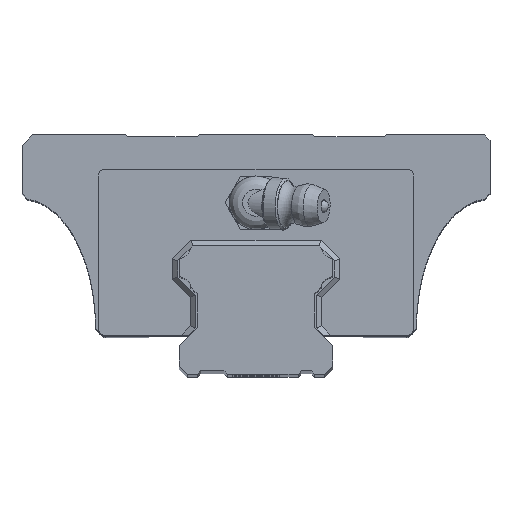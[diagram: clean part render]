
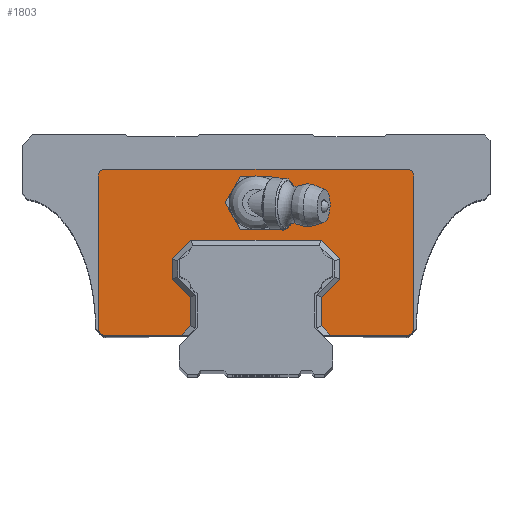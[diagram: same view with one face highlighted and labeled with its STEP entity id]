
A CAD part, top view. The second image highlights one B-rep face of the part: STEP entity #1803.
In plain terms, the highlighted planar face has unit normal (0, 0, 1).
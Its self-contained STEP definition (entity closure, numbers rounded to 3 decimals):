
#1617=CARTESIAN_POINT('',(2441.735,-3993.461,-50673.839));
#1618=VERTEX_POINT('',#1617);
#1619=CARTESIAN_POINT('',(2438.735,-3993.461,-50673.839));
#1620=DIRECTION('',(0.0,0.0,1.0));
#1621=DIRECTION('',(1.0,0.0,0.0));
#1622=AXIS2_PLACEMENT_3D('',#1619,#1620,#1621);
#1623=CIRCLE('',#1622,3.);
#1624=EDGE_CURVE('',#1618,#1618,#1623,.T.);
#1629=CARTESIAN_POINT('',(2416.135,-4012.261,-50673.839));
#1630=DIRECTION('',(0.0,0.0,1.0));
#1631=DIRECTION('',(1.0,0.0,0.0));
#1632=AXIS2_PLACEMENT_3D('',#1629,#1630,#1631);
#1633=PLANE('',#1632);
#1634=CARTESIAN_POINT('',(2448.535,-4011.846,-50673.839));
#1635=VERTEX_POINT('',#1634);
#1636=CARTESIAN_POINT('',(2448.535,-4007.595,-50673.839));
#1637=VERTEX_POINT('',#1636);
#1638=CARTESIAN_POINT('',(2448.535,-4011.846,-50673.839));
#1639=DIRECTION('',(0.0,1.0,0.0));
#1640=VECTOR('',#1639,4.251);
#1641=LINE('',#1638,#1640);
#1642=EDGE_CURVE('',#1635,#1637,#1641,.T.);
#1643=ORIENTED_EDGE('',*,*,#1642,.F.);
#1644=CARTESIAN_POINT('',(2449.95,-4013.261,-50673.839));
#1645=VERTEX_POINT('',#1644);
#1646=CARTESIAN_POINT('',(2449.95,-4013.261,-50673.839));
#1647=DIRECTION('',(-0.707,0.707,0.0));
#1648=VECTOR('',#1647,2.);
#1649=LINE('',#1646,#1648);
#1650=EDGE_CURVE('',#1645,#1635,#1649,.T.);
#1651=ORIENTED_EDGE('',*,*,#1650,.F.);
#1652=CARTESIAN_POINT('',(2461.335,-4013.261,-50673.839));
#1653=VERTEX_POINT('',#1652);
#1654=CARTESIAN_POINT('',(2449.95,-4013.261,-50673.839));
#1655=DIRECTION('',(1.0,0.0,0.0));
#1656=VECTOR('',#1655,11.386);
#1657=LINE('',#1654,#1656);
#1658=EDGE_CURVE('',#1645,#1653,#1657,.T.);
#1659=ORIENTED_EDGE('',*,*,#1658,.T.);
#1660=CARTESIAN_POINT('',(2462.335,-4012.261,-50673.839));
#1661=VERTEX_POINT('',#1660);
#1662=CARTESIAN_POINT('',(2461.335,-4012.261,-50673.839));
#1663=DIRECTION('',(0.0,0.0,1.0));
#1664=DIRECTION('',(1.0,0.0,0.0));
#1665=AXIS2_PLACEMENT_3D('',#1662,#1663,#1664);
#1666=CIRCLE('',#1665,1.);
#1667=EDGE_CURVE('',#1653,#1661,#1666,.T.);
#1668=ORIENTED_EDGE('',*,*,#1667,.T.);
#1669=CARTESIAN_POINT('',(2462.335,-3989.461,-50673.839));
#1670=VERTEX_POINT('',#1669);
#1671=CARTESIAN_POINT('',(2462.335,-4012.261,-50673.839));
#1672=DIRECTION('',(0.0,1.0,0.0));
#1673=VECTOR('',#1672,22.8);
#1674=LINE('',#1671,#1673);
#1675=EDGE_CURVE('',#1661,#1670,#1674,.T.);
#1676=ORIENTED_EDGE('',*,*,#1675,.T.);
#1677=CARTESIAN_POINT('',(2461.335,-3988.461,-50673.839));
#1678=VERTEX_POINT('',#1677);
#1679=CARTESIAN_POINT('',(2461.335,-3989.461,-50673.839));
#1680=DIRECTION('',(0.0,0.0,1.0));
#1681=DIRECTION('',(1.0,0.0,0.0));
#1682=AXIS2_PLACEMENT_3D('',#1679,#1680,#1681);
#1683=CIRCLE('',#1682,1.);
#1684=EDGE_CURVE('',#1670,#1678,#1683,.T.);
#1685=ORIENTED_EDGE('',*,*,#1684,.T.);
#1686=CARTESIAN_POINT('',(2416.135,-3988.461,-50673.839));
#1687=VERTEX_POINT('',#1686);
#1688=CARTESIAN_POINT('',(2461.335,-3988.461,-50673.839));
#1689=DIRECTION('',(-1.0,0.0,0.0));
#1690=VECTOR('',#1689,45.2);
#1691=LINE('',#1688,#1690);
#1692=EDGE_CURVE('',#1678,#1687,#1691,.T.);
#1693=ORIENTED_EDGE('',*,*,#1692,.T.);
#1694=CARTESIAN_POINT('',(2415.135,-3989.461,-50673.839));
#1695=VERTEX_POINT('',#1694);
#1696=CARTESIAN_POINT('',(2416.135,-3989.461,-50673.839));
#1697=DIRECTION('',(0.0,0.0,1.0));
#1698=DIRECTION('',(1.0,0.0,0.0));
#1699=AXIS2_PLACEMENT_3D('',#1696,#1697,#1698);
#1700=CIRCLE('',#1699,1.);
#1701=EDGE_CURVE('',#1687,#1695,#1700,.T.);
#1702=ORIENTED_EDGE('',*,*,#1701,.T.);
#1703=CARTESIAN_POINT('',(2415.135,-4012.261,-50673.839));
#1704=VERTEX_POINT('',#1703);
#1705=CARTESIAN_POINT('',(2415.135,-3989.461,-50673.839));
#1706=DIRECTION('',(0.0,-1.0,0.0));
#1707=VECTOR('',#1706,22.8);
#1708=LINE('',#1705,#1707);
#1709=EDGE_CURVE('',#1695,#1704,#1708,.T.);
#1710=ORIENTED_EDGE('',*,*,#1709,.T.);
#1711=CARTESIAN_POINT('',(2416.135,-4013.261,-50673.839));
#1712=VERTEX_POINT('',#1711);
#1713=CARTESIAN_POINT('',(2416.135,-4012.261,-50673.839));
#1714=DIRECTION('',(0.0,0.0,1.0));
#1715=DIRECTION('',(1.0,0.0,0.0));
#1716=AXIS2_PLACEMENT_3D('',#1713,#1714,#1715);
#1717=CIRCLE('',#1716,1.);
#1718=EDGE_CURVE('',#1704,#1712,#1717,.T.);
#1719=ORIENTED_EDGE('',*,*,#1718,.T.);
#1720=CARTESIAN_POINT('',(2427.521,-4013.261,-50673.839));
#1721=VERTEX_POINT('',#1720);
#1722=CARTESIAN_POINT('',(2416.135,-4013.261,-50673.839));
#1723=DIRECTION('',(1.0,0.0,0.0));
#1724=VECTOR('',#1723,11.386);
#1725=LINE('',#1722,#1724);
#1726=EDGE_CURVE('',#1712,#1721,#1725,.T.);
#1727=ORIENTED_EDGE('',*,*,#1726,.T.);
#1728=CARTESIAN_POINT('',(2428.935,-4011.846,-50673.839));
#1729=VERTEX_POINT('',#1728);
#1730=CARTESIAN_POINT('',(2428.935,-4011.846,-50673.839));
#1731=DIRECTION('',(-0.707,-0.707,0.0));
#1732=VECTOR('',#1731,2.);
#1733=LINE('',#1730,#1732);
#1734=EDGE_CURVE('',#1729,#1721,#1733,.T.);
#1735=ORIENTED_EDGE('',*,*,#1734,.F.);
#1736=CARTESIAN_POINT('',(2428.935,-4007.595,-50673.839));
#1737=VERTEX_POINT('',#1736);
#1738=CARTESIAN_POINT('',(2428.935,-4007.595,-50673.839));
#1739=DIRECTION('',(0.0,-1.0,0.0));
#1740=VECTOR('',#1739,4.251);
#1741=LINE('',#1738,#1740);
#1742=EDGE_CURVE('',#1737,#1729,#1741,.T.);
#1743=ORIENTED_EDGE('',*,*,#1742,.F.);
#1744=CARTESIAN_POINT('',(2426.235,-4004.895,-50673.839));
#1745=VERTEX_POINT('',#1744);
#1746=CARTESIAN_POINT('',(2426.235,-4004.895,-50673.839));
#1747=DIRECTION('',(0.707,-0.707,0.0));
#1748=VECTOR('',#1747,3.819);
#1749=LINE('',#1746,#1748);
#1750=EDGE_CURVE('',#1745,#1737,#1749,.T.);
#1751=ORIENTED_EDGE('',*,*,#1750,.F.);
#1752=CARTESIAN_POINT('',(2426.235,-4001.823,-50673.839));
#1753=VERTEX_POINT('',#1752);
#1754=CARTESIAN_POINT('',(2426.235,-4001.823,-50673.839));
#1755=DIRECTION('',(0.0,-1.0,0.0));
#1756=VECTOR('',#1755,3.071);
#1757=LINE('',#1754,#1756);
#1758=EDGE_CURVE('',#1753,#1745,#1757,.T.);
#1759=ORIENTED_EDGE('',*,*,#1758,.F.);
#1760=CARTESIAN_POINT('',(2428.998,-3999.061,-50673.839));
#1761=VERTEX_POINT('',#1760);
#1762=CARTESIAN_POINT('',(2428.998,-3999.061,-50673.839));
#1763=DIRECTION('',(-0.707,-0.707,0.0));
#1764=VECTOR('',#1763,3.907);
#1765=LINE('',#1762,#1764);
#1766=EDGE_CURVE('',#1761,#1753,#1765,.T.);
#1767=ORIENTED_EDGE('',*,*,#1766,.F.);
#1768=CARTESIAN_POINT('',(2448.473,-3999.061,-50673.839));
#1769=VERTEX_POINT('',#1768);
#1770=CARTESIAN_POINT('',(2448.473,-3999.061,-50673.839));
#1771=DIRECTION('',(-1.0,0.0,0.0));
#1772=VECTOR('',#1771,19.475);
#1773=LINE('',#1770,#1772);
#1774=EDGE_CURVE('',#1769,#1761,#1773,.T.);
#1775=ORIENTED_EDGE('',*,*,#1774,.F.);
#1776=CARTESIAN_POINT('',(2451.236,-4001.823,-50673.839));
#1777=VERTEX_POINT('',#1776);
#1778=CARTESIAN_POINT('',(2451.236,-4001.823,-50673.839));
#1779=DIRECTION('',(-0.707,0.707,0.0));
#1780=VECTOR('',#1779,3.907);
#1781=LINE('',#1778,#1780);
#1782=EDGE_CURVE('',#1777,#1769,#1781,.T.);
#1783=ORIENTED_EDGE('',*,*,#1782,.F.);
#1784=CARTESIAN_POINT('',(2451.236,-4004.895,-50673.839));
#1785=VERTEX_POINT('',#1784);
#1786=CARTESIAN_POINT('',(2451.236,-4004.895,-50673.839));
#1787=DIRECTION('',(0.,1.0,0.0));
#1788=VECTOR('',#1787,3.071);
#1789=LINE('',#1786,#1788);
#1790=EDGE_CURVE('',#1785,#1777,#1789,.T.);
#1791=ORIENTED_EDGE('',*,*,#1790,.F.);
#1792=CARTESIAN_POINT('',(2448.535,-4007.595,-50673.839));
#1793=DIRECTION('',(0.707,0.707,0.0));
#1794=VECTOR('',#1793,3.819);
#1795=LINE('',#1792,#1794);
#1796=EDGE_CURVE('',#1637,#1785,#1795,.T.);
#1797=ORIENTED_EDGE('',*,*,#1796,.F.);
#1798=EDGE_LOOP('',(#1643,#1651,#1659,#1668,#1676,#1685,#1693,#1702,#1710,#1719,#1727,#1735,#1743,#1751,#1759,#1767,#1775,#1783,#1791,#1797));
#1799=FACE_OUTER_BOUND('',#1798,.T.);
#1800=ORIENTED_EDGE('',*,*,#1624,.F.);
#1801=EDGE_LOOP('',(#1800));
#1802=FACE_BOUND('',#1801,.T.);
#1803=ADVANCED_FACE('',(#1799,#1802),#1633,.T.);
